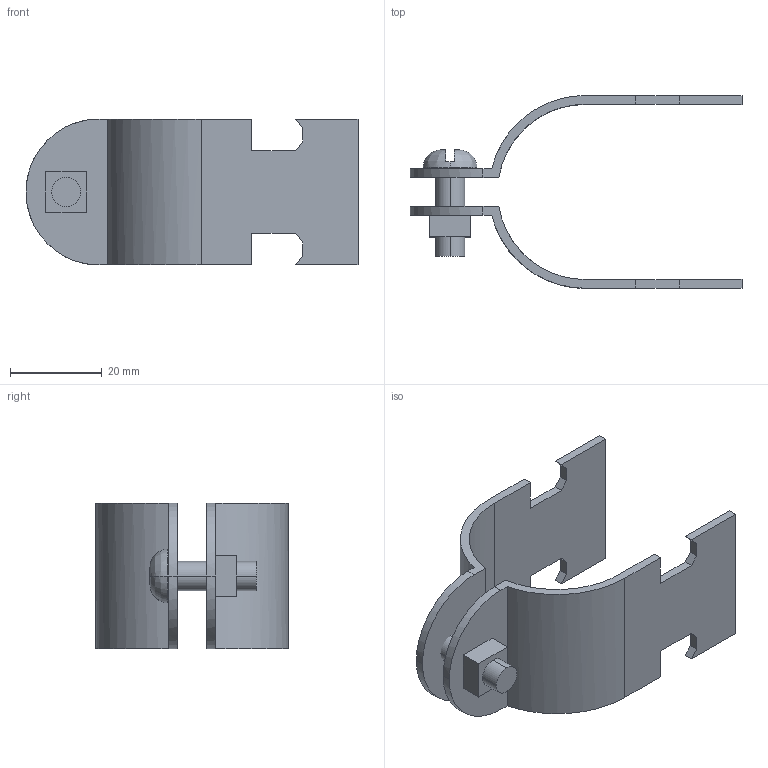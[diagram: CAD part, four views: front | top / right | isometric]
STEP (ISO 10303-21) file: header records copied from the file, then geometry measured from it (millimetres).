
FILE_DESCRIPTION(('TurboCAD Mac Pro'),'Build 980');
FILE_NAME('P2034.stp',' ',(''),(''),'ACIS Interop','IMSI','TurboCAD Mac Pro BY IMSI, INCORPORATED');
FILE_SCHEMA(('automotive_design'));
Length unit declared in the file: inch
Products named in the file (5): 1; 2; 3; 4; 5
Bounding box: 72.2 x 41.91 x 31.74 mm (x, y, z)
Volume: 9810.2 mm3; surface area: 11114.2 mm2
Topology: 4 solids, 4 shells, 75 faces, 194 edges, 128 vertices
Faces by surface type: plane 51, bspline 24
Entity records: 3647 total; most frequent: CARTESIAN_POINT 1154, ORIENTED_EDGE 388, DIRECTION 262, EDGE_CURVE 194, LINE 142, VECTOR 142, VERTEX_POINT 128, STYLED_ITEM 91
